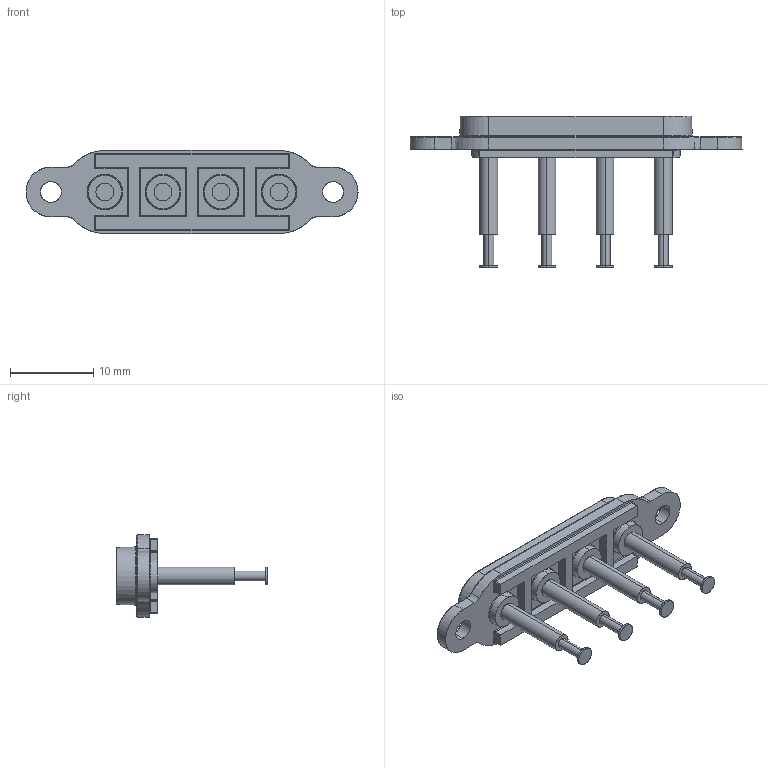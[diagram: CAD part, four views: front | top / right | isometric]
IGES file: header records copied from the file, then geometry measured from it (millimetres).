
Start section: SolidWorks IGES file using analytic representation for surfaces
Global section: file name: \\CODA-VM-SBS\RedirectedFolders\georged\My Documents\Coda\ICA Connectors\ICA-4-LT.IGS; native system: SolidWorks 2022; preprocessor: SolidWorks 2022; author: GeorgeD; date: 230208.102247; units: millimetre
Bounding box: 40 x 18.3 x 10 mm (x, y, z)
Surface area: 1827.7 mm2 (no closed solid volume)
Topology: 0 solids, 0 shells, 306 faces, 3576 edges, 3576 vertices
Faces by surface type: revolution 182, bspline 124
